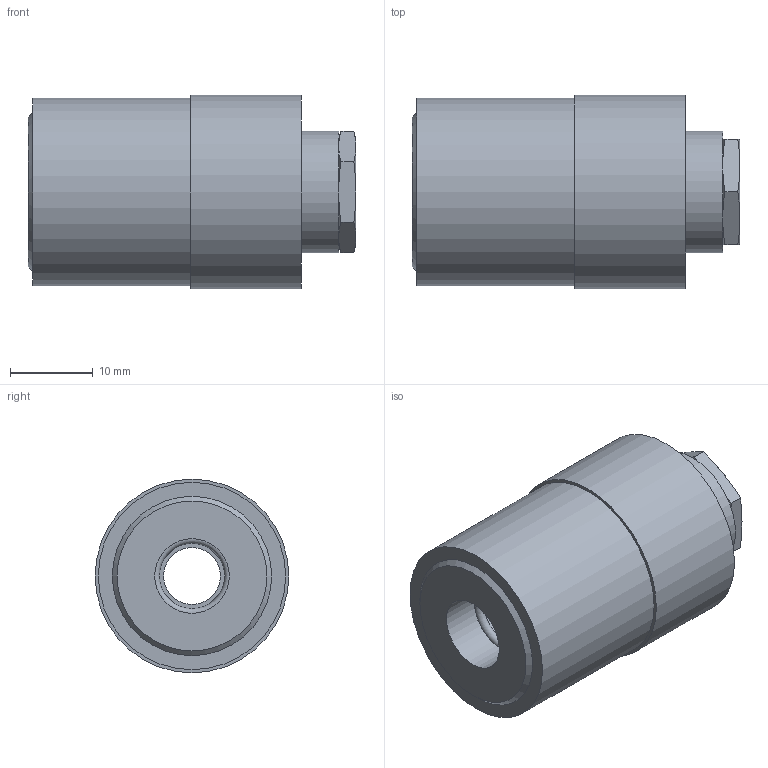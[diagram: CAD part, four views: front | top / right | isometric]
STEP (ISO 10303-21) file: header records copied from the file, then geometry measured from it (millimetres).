
FILE_DESCRIPTION(/* description */ ('STEP AP214'),/* implementation_level */ '2;1');
FILE_NAME(/* name */ 'SK200',/* time_stamp */ '2024-12-19T09:33:49+01:00',/* author */ ('License CC BY-ND 4.0'),/* organization */ ('CADENAS'),/* preprocessor_version */ 'ST-DEVELOPER v19.3',/* originating_system */ 'PARTsolutions',/* authorisation */ ' ');
FILE_SCHEMA (('AUTOMOTIVE_DESIGN {1 0 10303 214 3 1 1}'));
Length unit declared in the file: millimetre
Products named in the file (1): SK200
Bounding box: 39.57 x 23.37 x 23.37 mm (x, y, z)
Volume: 12453.2 mm3; surface area: 4465.9 mm2
Topology: 1 solids, 1 shells, 36 faces, 70 edges, 41 vertices
Faces by surface type: cone 15, plane 13, cylinder 7, torus 1
Full cylindrical faces by diameter (mm): 6.853 x1, 8.566 x1, 9 x2, 14.668 x1, 22.606 x1, 23.368 x1
Entity records: 910 total; most frequent: CARTESIAN_POINT 209, DIRECTION 138, ORIENTED_EDGE 118, AXIS2_PLACEMENT_3D 66, EDGE_CURVE 59, EDGE_LOOP 54, FACE_BOUND 54, VERTEX_POINT 41
